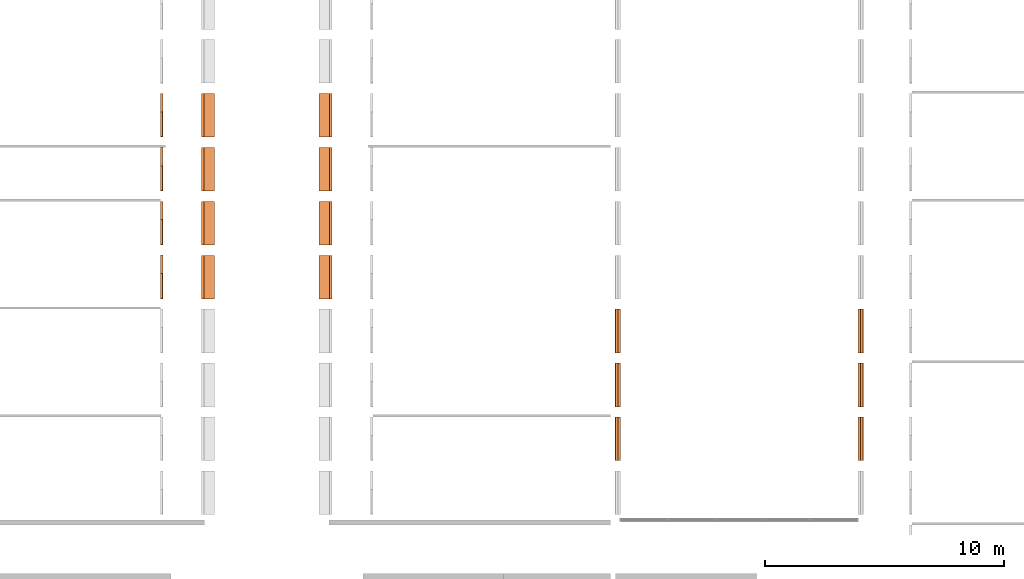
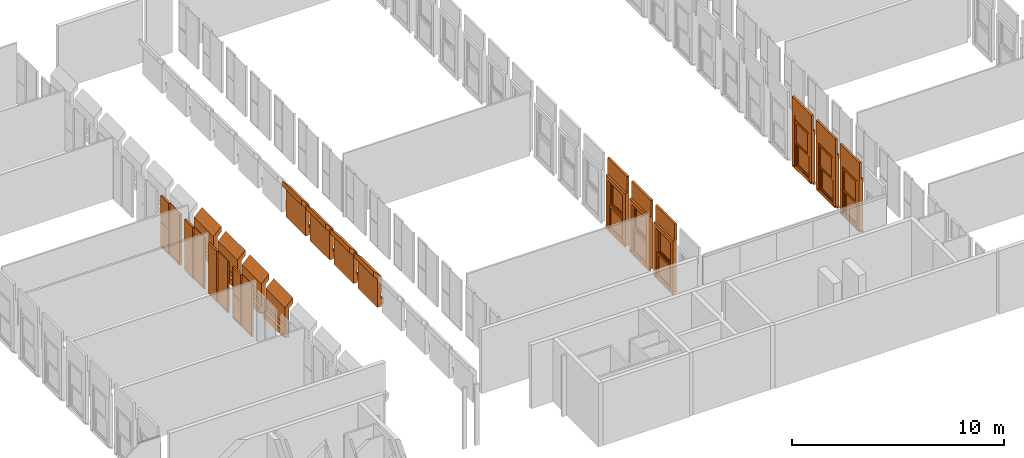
# One storey, part 9 of 13: 18 proxies.
"""IFC2X3 building model written with IfcOpenShell, lengths in millimetres."""

from ifc_helpers import new_model, entity, si_unit, converted_unit, derived_unit, direction, frame, frame_2d, origin, origin_2d_with_axis, place, context, subcontext, project, spatial, polyline, rectangle, outline, extrude, source, transform, mapped, material, material_list, type_object, type_shapes, element, save


model = new_model("IFC2X3")

# Units and contexts
model_context = context("Model", 3, precision=0.01, world=origin(), true_north=direction((6.12303176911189e-17, 1.0)))
body_context = subcontext(model_context, "Body", "Model", "MODEL_VIEW")
ifc_project = project(units=[si_unit("LENGTHUNIT", "METRE", prefix="MILLI"), si_unit("AREAUNIT", "SQUARE_METRE"), si_unit("VOLUMEUNIT", "CUBIC_METRE"), converted_unit("PLANEANGLEUNIT", "DEGREE", entity("IfcRatioMeasure", 0.0174532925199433), si_unit("PLANEANGLEUNIT", "RADIAN"), dimensions=[0, 0, 0, 0, 0, 0, 0]), si_unit("MASSUNIT", "GRAM", prefix="KILO"), derived_unit("MASSDENSITYUNIT", [(si_unit("MASSUNIT", "GRAM", prefix="KILO"), 1), (si_unit("LENGTHUNIT", "METRE"), -3)]), derived_unit("MOMENTOFINERTIAUNIT", [(si_unit("LENGTHUNIT", "METRE"), 4)]), si_unit("TIMEUNIT", "SECOND"), si_unit("FREQUENCYUNIT", "HERTZ"), si_unit("THERMODYNAMICTEMPERATUREUNIT", "DEGREE_CELSIUS"), derived_unit("THERMALTRANSMITTANCEUNIT", [(si_unit("MASSUNIT", "GRAM", prefix="KILO"), 1), (si_unit("THERMODYNAMICTEMPERATUREUNIT", "KELVIN"), -1), (si_unit("TIMEUNIT", "SECOND"), -3)]), derived_unit("VOLUMETRICFLOWRATEUNIT", [(si_unit("LENGTHUNIT", "METRE"), 3), (si_unit("TIMEUNIT", "SECOND"), -1)]), si_unit("ELECTRICCURRENTUNIT", "AMPERE"), si_unit("ELECTRICVOLTAGEUNIT", "VOLT"), si_unit("POWERUNIT", "WATT"), si_unit("FORCEUNIT", "NEWTON", prefix="KILO"), si_unit("ILLUMINANCEUNIT", "LUX"), si_unit("LUMINOUSFLUXUNIT", "LUMEN"), si_unit("LUMINOUSINTENSITYUNIT", "CANDELA"), derived_unit("USERDEFINED", [(si_unit("MASSUNIT", "GRAM", prefix="KILO"), -1), (si_unit("LENGTHUNIT", "METRE"), -2), (si_unit("TIMEUNIT", "SECOND"), 3), (si_unit("LUMINOUSFLUXUNIT", "LUMEN"), 1)]), derived_unit("LINEARVELOCITYUNIT", [(si_unit("LENGTHUNIT", "METRE"), 1), (si_unit("TIMEUNIT", "SECOND"), -1)]), si_unit("PRESSUREUNIT", "PASCAL"), derived_unit("USERDEFINED", [(si_unit("LENGTHUNIT", "METRE"), -2), (si_unit("MASSUNIT", "GRAM", prefix="KILO"), 1), (si_unit("TIMEUNIT", "SECOND"), -2)]), derived_unit("LINEARFORCEUNIT", [(si_unit("MASSUNIT", "GRAM", prefix="KILO"), 1), (si_unit("LENGTHUNIT", "METRE"), 1), (si_unit("TIMEUNIT", "SECOND"), -2), (si_unit("LENGTHUNIT", "METRE"), -1)]), derived_unit("PLANARFORCEUNIT", [(si_unit("MASSUNIT", "GRAM", prefix="KILO"), 1), (si_unit("LENGTHUNIT", "METRE"), 1), (si_unit("TIMEUNIT", "SECOND"), -2), (si_unit("LENGTHUNIT", "METRE"), -2)])], contexts=[model_context])

# Site, building, storey
site_placement = place(None, frame((10627.5135316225, 21939.0796949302, 0.0)))
site = spatial("IfcSite", under=ifc_project, at=site_placement, Name="Default", CompositionType="ELEMENT")
building_placement = place(site_placement, origin())
building = spatial("IfcBuilding", under=site, at=building_placement, CompositionType="ELEMENT")
storey_placement = place(building_placement, frame((0.0, 0.0, 7320.0)))
storey = spatial("IfcBuildingStorey", under=building, at=storey_placement, Name="R+2", CompositionType="ELEMENT", Elevation=7320.0)

# Proxies
ifc_material_1 = material(Name="PVC, Flexible")
ifc_material_2 = material(Name="Glass")
ifc_material_list_1 = material_list([ifc_material_1, ifc_material_2])
building_element_proxy_type_1 = type_object("IfcBuildingElementProxyType", Name="FENETRE.dwg:Fenetre ext 296+95", PredefinedType="NOTDEFINED", material=ifc_material_1)
shared_shape_1 = source(origin(), body_context, "Body", "SweptSolid", [
    extrude(rectangle(XDim=1829.99999999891, YDim=112.500043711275, at=origin_2d_with_axis()), frame((-10.4189092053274, 56.2500218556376, 2960.0), z_axis=(0.0, 0.0, 1.0), x_axis=(-1.0, 0.0, 0.0)), (0.0, 0.0, 1.0), 949.999999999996),
    extrude(outline(polyline([(-68.5678005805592, -14.3879872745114), (-72.4883397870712, -33.9999574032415), (-67.5853472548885, -34.9800922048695), (-63.9024543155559, -16.5569155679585), (44.3087537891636, -16.5569155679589), (54.1101018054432, 32.4730097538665), (40.6268723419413, 35.1683804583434), (40.1368049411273, 32.7168841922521), (51.168538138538, 30.5115808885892), (42.1928709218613, -14.3879872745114), (-68.5678005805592, -14.3879872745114)])), frame((-925.418909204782, 66.917049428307, -47.5499763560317), z_axis=(-1.0, 0.0, 0.0), x_axis=(0.0, 0.980598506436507, -0.196026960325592)), (0.0, 0.0, -1.0), 1829.99999999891),
    extrude(outline(polyline([(-64.667066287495, -56.2500218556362), (66.1666874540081, -56.2500218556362), (66.1666874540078, 56.2500218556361), (-67.6663086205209, 56.2500218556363), (-64.667066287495, -56.2500218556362)])), frame((-925.418909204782, -56.2500218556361, -63.833312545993), z_axis=(1.0, 0.0, 0.0), x_axis=(0.0, 0.0, -1.0)), (0.0, 0.0, 1.0), 1829.99999999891),
    extrude(outline(polyline([(-55.5555555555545, 97.0007159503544), (-55.5555555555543, -5.85738417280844), (-55.5555555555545, -95.357341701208), (-45.5555555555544, -95.3573417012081), (-45.5555555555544, -105.357341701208), (174.444444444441, -105.357341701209), (174.444444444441, 106.642659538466), (-45.5555555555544, 106.642659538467), (-45.5555555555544, 97.0007159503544), (-55.5555555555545, 97.0007159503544)])), frame((849.025535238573, 5.85738417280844, 0.0), z_axis=(0.0, 0.0, -1.0), x_axis=(-1.0, 0.0, 0.0)), (0.0, 0.0, -1.0), 2960.0),
    extrude(rectangle(XDim=199.499957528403, YDim=1369.99999999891, at=origin_2d_with_axis()), frame((-10.4189092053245, 0.250021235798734, 2730.0), z_axis=(0.0, 0.0, 1.0), x_axis=(0.0, 1.0, 0.0)), (0.0, 0.0, 1.0), 230.000000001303),
    extrude(outline(polyline([(-97.0007159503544, -55.5555555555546), (5.85738417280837, -55.5555555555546), (95.357341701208, -55.5555555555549), (95.357341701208, -45.5555555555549), (105.357341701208, -45.5555555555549), (105.357341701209, 174.44444444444), (-106.642659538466, 174.444444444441), (-106.642659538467, -45.5555555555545), (-97.0007159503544, -45.5555555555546), (-97.0007159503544, -55.5555555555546)])), frame((-869.863353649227, 5.85738417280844, 0.0), z_axis=(0.0, 0.0, 1.0), x_axis=(0.0, -1.0, 0.0)), (0.0, 0.0, 1.0), 2960.0),
    extrude(rectangle(XDim=1.0, YDim=1079.99999999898, at=origin_2d_with_axis()), frame((-10.4189092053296, -19.5, 130.0), z_axis=(0.0, 0.0, 1.0), x_axis=(0.0, 1.0, 0.0)), (0.0, 0.0, 1.0), 1120.00000000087),
    extrude(rectangle(XDim=1.0, YDim=1079.99999999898, at=frame_2d((-4.21884749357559e-15, 0.0), x_axis=(1.0, 0.0))), frame((-10.4189092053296, -30.5, 130.0), z_axis=(0.0, 0.0, 1.0), x_axis=(0.0, 1.0, 0.0)), (0.0, 0.0, 1.0), 1120.00000000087),
    extrude(rectangle(XDim=1.0, YDim=1079.99999999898, at=frame_2d((-4.21884749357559e-15, 0.0), x_axis=(1.0, 0.0))), frame((-10.4189092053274, 69.5, 1465.0), z_axis=(0.0, 0.0, 1.0), x_axis=(0.0, 1.0, 0.0)), (0.0, 0.0, 1.0), 1120.0),
    extrude(rectangle(XDim=0.999999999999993, YDim=1079.99999999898, at=frame_2d((-8.46545056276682e-15, 0.0), x_axis=(1.0, 0.0))), frame((-10.4189092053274, 80.5, 1465.0), z_axis=(0.0, 0.0, 1.0), x_axis=(0.0, 1.0, 0.0)), (0.0, 0.0, 1.0), 1120.00000000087),
    extrude(outline(polyline([(-685.0, -1365.0), (0.0, -1365.0), (685.0, -1365.0), (685.0, 1365.0), (0.0, 1365.0), (-685.0, 1365.0), (-685.0, -1365.0)]), holes=[polyline([(-640.0, -1320.0), (-640.0, -45.0), (0.0, -45.0), (640.0, -45.0), (640.0, -1320.0), (0.0, -1320.0), (-640.0, -1320.0)]), polyline([(-640.0, 40.0), (-640.0, 1315.0), (0.0, 1315.0), (640.0, 1315.0), (640.0, 40.0), (0.0, 40.0), (-640.0, 40.0)])]), frame((-10.4189092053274, 0.0, 1365.0), z_axis=(0.0, 1.0, 0.0), x_axis=(1.0, 0.0, 0.0)), (0.0, 0.0, 1.0), 50.0),
    extrude(outline(polyline([(-655.0, -667.500000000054), (655.0, -667.500000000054), (655.0, 667.500000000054), (-655.0, 667.500000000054), (-655.0, -667.500000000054)]), holes=[polyline([(-540.0, 552.500000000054), (540.0, 552.500000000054), (540.0, -567.500000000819), (-540.0, -567.500000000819), (-540.0, 552.500000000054)])]), frame((-10.4189092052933, -50.0, 697.500000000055), z_axis=(0.0, 1.0, 0.0), x_axis=(-1.0, 0.0, 0.0)), (0.0, 0.0, 1.0), 50.0),
    extrude(outline(polyline([(-655.0, -667.500000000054), (655.0, -667.500000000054), (655.0, 667.500000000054), (-655.0, 667.500000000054), (-655.0, -667.500000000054)]), holes=[polyline([(-540.0, 552.500000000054), (540.0, 552.500000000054), (540.0, -567.500000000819), (-540.0, -567.500000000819), (-540.0, 552.500000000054)])]), frame((-10.4189092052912, 50.0, 2032.50000000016), z_axis=(0.0, 1.0, 0.0), x_axis=(-1.0, 0.0, 0.0)), (0.0, 0.0, 1.0), 50.0),
])
type_shapes(building_element_proxy_type_1, [shared_shape_1])
proxy_1_placement = place(storey_placement, frame((51473.0982174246, -7238.66078572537, 0.0), z_axis=(0.0, 0.0, 1.0), x_axis=(0.0, 1.0, 0.0)))
element("IfcBuildingElementProxy", 1, at=proxy_1_placement, inside=storey, type_object=building_element_proxy_type_1, material=ifc_material_list_1, Name="FENETRE.dwg:Fenetre ext 296+95", ObjectType="FENETRE.dwg:Fenetre ext 296+95", context=body_context, shape_type="MappedRepresentation", body=[
    mapped(shared_shape_1, transform((0.0, 0.0, 0.0), scale=1.0)),
])
ifc_material_list_2 = material_list([ifc_material_1, ifc_material_2])
proxy_2_placement = place(storey_placement, frame((51473.0982174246, -9498.66078572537, 0.0), z_axis=(0.0, 0.0, 1.0), x_axis=(0.0, 1.0, 0.0)))
element("IfcBuildingElementProxy", 2, at=proxy_2_placement, inside=storey, type_object=building_element_proxy_type_1, material=ifc_material_list_2, Name="FENETRE.dwg:Fenetre ext 296+95", ObjectType="FENETRE.dwg:Fenetre ext 296+95", context=body_context, shape_type="MappedRepresentation", body=[
    mapped(shared_shape_1, transform((0.0, 0.0, 0.0), scale=1.0)),
])
ifc_material_list_3 = material_list([ifc_material_1, ifc_material_2])
proxy_3_placement = place(storey_placement, frame((51473.0982174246, -11758.6607857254, 0.0), z_axis=(0.0, 0.0, 1.0), x_axis=(0.0, 1.0, 0.0)))
element("IfcBuildingElementProxy", 3, at=proxy_3_placement, inside=storey, type_object=building_element_proxy_type_1, material=ifc_material_list_3, Name="FENETRE.dwg:Fenetre ext 296+95", ObjectType="FENETRE.dwg:Fenetre ext 296+95", context=body_context, shape_type="MappedRepresentation", body=[
    mapped(shared_shape_1, transform((0.0, 0.0, 0.0), scale=1.0)),
])
ifc_material_list_4 = material_list([ifc_material_1, ifc_material_2])
building_element_proxy_type_2 = type_object("IfcBuildingElementProxyType", Name="FENETRE.dwg:Fenetre ext 296+95", PredefinedType="NOTDEFINED", material=ifc_material_1)
shared_shape_2 = source(origin(), body_context, "Body", "SweptSolid", [
    extrude(rectangle(XDim=112.500043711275, YDim=1829.99999999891, at=origin_2d_with_axis()), frame((-10.4189092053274, -56.2500218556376, 2960.0), z_axis=(0.0, 0.0, 1.0), x_axis=(0.0, 1.0, 0.0)), (0.0, 0.0, 1.0), 949.999999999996),
    extrude(outline(polyline([(27.5499763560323, -64.4170494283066), (47.5499763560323, -64.4170494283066), (47.5499763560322, -59.4170494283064), (28.7622905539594, -59.4170494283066), (7.54997635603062, 46.6946996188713), (-42.4500236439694, 46.6946996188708), (-42.4500236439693, 32.9446996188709), (-39.9500236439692, 32.9446996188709), (-39.9500236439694, 44.1946996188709), (5.83789859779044, 44.1946996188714), (27.5499763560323, -64.4170494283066)])), frame((-925.418909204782, -66.917049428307, -47.5499763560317), z_axis=(1.0, 0.0, 0.0), x_axis=(0.0, 0.0, 1.0)), (0.0, 0.0, 1.0), 1829.99999999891),
    extrude(outline(polyline([(-54.506636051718, -66.1431859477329), (58.0333803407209, -66.1431859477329), (54.4666704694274, 67.6422744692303), (-57.9934147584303, 64.6440974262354), (-54.506636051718, -66.1431859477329)])), frame((-925.418909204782, 56.2500218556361, -63.833312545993), z_axis=(1.0, 0.0, 0.0), x_axis=(0.0, -0.999644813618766, 0.0266504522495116)), (0.0, 0.0, 1.0), 1829.99999999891),
    extrude(outline(polyline([(-97.0007159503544, -55.5555555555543), (5.85738417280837, -55.5555555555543), (95.357341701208, -55.5555555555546), (95.357341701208, -45.5555555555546), (105.357341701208, -45.5555555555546), (105.357341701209, 174.444444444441), (-106.642659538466, 174.444444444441), (-106.642659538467, -45.5555555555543), (-97.0007159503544, -45.5555555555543), (-97.0007159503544, -55.5555555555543)])), frame((849.025535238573, -5.85738417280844, 0.0), z_axis=(0.0, 0.0, 1.0), x_axis=(0.0, 1.0, 0.0)), (0.0, 0.0, 1.0), 2960.0),
    extrude(rectangle(XDim=1369.99999999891, YDim=199.499957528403, at=origin_2d_with_axis()), frame((-10.4189092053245, -0.250021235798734, 2730.0), z_axis=(0.0, 0.0, 1.0), x_axis=(-1.0, 0.0, 0.0)), (0.0, 0.0, 1.0), 230.000000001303),
    extrude(outline(polyline([(-55.5555555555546, 97.0007159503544), (-55.5555555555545, -5.85738417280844), (-55.5555555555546, -95.357341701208), (-45.5555555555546, -95.3573417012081), (-45.5555555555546, -105.357341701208), (174.444444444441, -105.357341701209), (174.444444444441, 106.642659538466), (-45.5555555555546, 106.642659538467), (-45.5555555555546, 97.0007159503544), (-55.5555555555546, 97.0007159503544)])), frame((-869.863353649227, -5.85738417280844, 0.0), z_axis=(0.0, 0.0, -1.0), x_axis=(1.0, 0.0, 0.0)), (0.0, 0.0, -1.0), 2960.0),
    extrude(rectangle(XDim=1079.99999999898, YDim=1.0, at=origin_2d_with_axis()), frame((-10.4189092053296, 19.5, 130.0), z_axis=(0.0, 0.0, 1.0), x_axis=(-1.0, 0.0, 0.0)), (0.0, 0.0, 1.0), 1120.00000000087),
    extrude(rectangle(XDim=1079.99999999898, YDim=1.0, at=origin_2d_with_axis()), frame((-10.4189092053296, 30.5, 130.0), z_axis=(0.0, 0.0, 1.0), x_axis=(-1.0, 0.0, 0.0)), (0.0, 0.0, 1.0), 1120.00000000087),
    extrude(rectangle(XDim=1079.99999999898, YDim=1.0, at=frame_2d((0.0, 4.21884749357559e-15), x_axis=(1.0, 0.0))), frame((-10.4189092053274, -69.5, 1465.0), z_axis=(0.0, 0.0, 1.0), x_axis=(-1.0, 0.0, 0.0)), (0.0, 0.0, 1.0), 1120.0),
    extrude(rectangle(XDim=1079.99999999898, YDim=0.999999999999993, at=frame_2d((0.0, -8.46545056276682e-15), x_axis=(1.0, 0.0))), frame((-10.4189092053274, -80.5, 1465.0), z_axis=(0.0, 0.0, 1.0), x_axis=(-1.0, 0.0, 0.0)), (0.0, 0.0, 1.0), 1120.00000000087),
    extrude(outline(polyline([(-685.0, -1365.0), (0.0, -1365.0), (685.0, -1365.0), (685.0, 1365.0), (0.0, 1365.0), (-685.0, 1365.0), (-685.0, -1365.0)]), holes=[polyline([(-640.0, -1320.0), (-640.0, -45.0), (0.0, -45.0), (640.0, -45.0), (640.0, -1320.0), (0.0, -1320.0), (-640.0, -1320.0)]), polyline([(-640.0, 40.0), (-640.0, 1315.0), (0.0, 1315.0), (640.0, 1315.0), (640.0, 40.0), (0.0, 40.0), (-640.0, 40.0)])]), frame((-10.4189092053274, -50.0, 1365.0), z_axis=(0.0, 1.0, 0.0), x_axis=(1.0, 0.0, 0.0)), (0.0, 0.0, 1.0), 50.0),
    extrude(outline(polyline([(-655.0, -667.500000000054), (655.0, -667.500000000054), (655.0, 667.500000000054), (-655.0, 667.500000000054), (-655.0, -667.500000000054)]), holes=[polyline([(-540.0, 552.500000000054), (540.0, 552.500000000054), (540.0, -567.500000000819), (-540.0, -567.500000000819), (-540.0, 552.500000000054)])]), frame((-10.4189092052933, 0.0, 697.500000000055), z_axis=(0.0, 1.0, 0.0), x_axis=(-1.0, 0.0, 0.0)), (0.0, 0.0, 1.0), 50.0),
    extrude(outline(polyline([(-655.0, -667.500000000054), (655.0, -667.500000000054), (655.0, 667.500000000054), (-655.0, 667.500000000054), (-655.0, -667.500000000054)]), holes=[polyline([(-540.0, 552.500000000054), (540.0, 552.500000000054), (540.0, -567.500000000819), (-540.0, -567.500000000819), (-540.0, 552.500000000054)])]), frame((-10.4189092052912, -100.0, 2032.50000000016), z_axis=(0.0, 1.0, 0.0), x_axis=(-1.0, 0.0, 0.0)), (0.0, 0.0, 1.0), 50.0),
])
type_shapes(building_element_proxy_type_2, [shared_shape_2])
proxy_4_placement = place(storey_placement, frame((41291.8747193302, -7238.66078572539, 0.0), z_axis=(0.0, 0.0, 1.0), x_axis=(0.0, 1.0, 0.0)))
element("IfcBuildingElementProxy", 4, at=proxy_4_placement, inside=storey, type_object=building_element_proxy_type_2, material=ifc_material_list_4, Name="FENETRE.dwg:Fenetre ext 296+95", ObjectType="FENETRE.dwg:Fenetre ext 296+95", context=body_context, shape_type="MappedRepresentation", body=[
    mapped(shared_shape_2, transform((0.0, 0.0, 0.0), scale=1.0)),
])
ifc_material_list_5 = material_list([ifc_material_1, ifc_material_2])
proxy_5_placement = place(storey_placement, frame((41291.8747193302, -9498.66078572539, 0.0), z_axis=(0.0, 0.0, 1.0), x_axis=(0.0, 1.0, 0.0)))
element("IfcBuildingElementProxy", 5, at=proxy_5_placement, inside=storey, type_object=building_element_proxy_type_2, material=ifc_material_list_5, Name="FENETRE.dwg:Fenetre ext 296+95", ObjectType="FENETRE.dwg:Fenetre ext 296+95", context=body_context, shape_type="MappedRepresentation", body=[
    mapped(shared_shape_2, transform((0.0, 0.0, 0.0), scale=1.0)),
])
ifc_material_list_6 = material_list([ifc_material_1, ifc_material_2])
proxy_6_placement = place(storey_placement, frame((41291.8747193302, -11758.6607857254, 0.0), z_axis=(0.0, 0.0, 1.0), x_axis=(0.0, 1.0, 0.0)))
element("IfcBuildingElementProxy", 6, at=proxy_6_placement, inside=storey, type_object=building_element_proxy_type_2, material=ifc_material_list_6, Name="FENETRE.dwg:Fenetre ext 296+95", ObjectType="FENETRE.dwg:Fenetre ext 296+95", context=body_context, shape_type="MappedRepresentation", body=[
    mapped(shared_shape_2, transform((0.0, 0.0, 0.0), scale=1.0)),
])
ifc_material_3 = material(Name="Plywood, Sheathing")
ifc_material_list_7 = material_list([ifc_material_3, ifc_material_2])
building_element_proxy_type_3 = type_object("IfcBuildingElementProxyType", Name="Porte noire:Porte noire", PredefinedType="NOTDEFINED", material=ifc_material_3)
shared_shape_3 = source(origin(), body_context, "Body", "SweptSolid", [
    extrude(rectangle(XDim=100.0, YDim=23.0000000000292, at=origin_2d_with_axis()), frame((-950.918997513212, -50.0, 8.73189890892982), z_axis=(0.0, 0.0, 1.0), x_axis=(0.0, 1.0, 0.0)), (0.0, 0.0, 1.0), 2933.34951039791),
    extrude(rectangle(XDim=19.0, YDim=1038.0, at=frame_2d((7.99360577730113e-15, 0.0), x_axis=(1.0, 0.0))), frame((-420.418997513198, -87.5, 43.7318989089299), z_axis=(0.0, 0.0, 1.0), x_axis=(0.0, 1.0, 0.0)), (0.0, 0.0, 1.0), 2898.5),
    extrude(rectangle(XDim=100.0, YDim=1775.0, at=origin_2d_with_axis()), frame((-51.9189975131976, -50.0, 8.73189890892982), z_axis=(0.0, 0.0, 1.0), x_axis=(0.0, 1.0, 0.0)), (0.0, 0.0, 1.0), 35.0000000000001),
    extrude(rectangle(XDim=100.0, YDim=35.0000000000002, at=origin_2d_with_axis()), frame((853.081002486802, -50.0, 8.73189890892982), z_axis=(0.0, 0.0, 1.0), x_axis=(0.0, 1.0, 0.0)), (0.0, 0.0, 1.0), 2898.5),
    extrude(rectangle(XDim=100.0, YDim=740.0, at=origin_2d_with_axis()), frame((500.581002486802, -50.0, 2907.23189890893), z_axis=(0.0, 0.0, 1.0), x_axis=(0.0, 1.0, 0.0)), (0.0, 0.0, 1.0), 35.0000000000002),
    extrude(rectangle(XDim=100.0, YDim=31.9999999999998, at=origin_2d_with_axis()), frame((114.581002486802, -50.0, 43.7318989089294), z_axis=(0.0, 0.0, 1.0), x_axis=(0.0, 1.0, 0.0)), (0.0, 0.0, 1.0), 2898.5),
    extrude(rectangle(XDim=100.0, YDim=705.0, at=origin_2d_with_axis()), frame((483.081002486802, -50.0, 1343.73189890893), z_axis=(0.0, 0.0, 1.0), x_axis=(0.0, 1.0, 0.0)), (0.0, 0.0, 1.0), 55.0),
    extrude(outline(polyline([(-352.5, -650.0), (352.5, -650.0), (352.5, 650.0), (-352.5, 650.0), (-352.5, -650.0)]), holes=[polyline([(342.5, 640.0), (342.5, -640.0), (-342.5, -640.0), (-342.5, 640.0), (342.5, 640.0)])]), frame((483.081002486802, -80.0, 693.73189890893), z_axis=(0.0, 1.0, 0.0), x_axis=(1.0, 0.0, 0.0)), (0.0, 0.0, 1.0), 70.0),
    extrude(outline(polyline([(-754.25, -352.5), (754.25, -352.5), (754.25, 352.5), (-754.25, 352.5), (-754.25, -352.5)]), holes=[polyline([(744.25, 342.5), (744.25, -342.5), (-744.25, -342.5), (-744.25, 342.5), (744.25, 342.5)])]), frame((483.081002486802, -80.0, 2152.98189890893), z_axis=(0.0, 1.0, 0.0), x_axis=(0.0, 0.0, 1.0)), (0.0, 0.0, 1.0), 70.0),
    extrude(outline(polyline([(-640.0, -342.5), (640.0, -342.5), (640.0, 342.5), (-640.0, 342.5), (-640.0, -342.5)]), holes=[polyline([(630.0, 332.5), (630.0, -332.5), (-630.0, -332.5), (-630.0, 332.5), (630.0, 332.5)])]), frame((483.081002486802, -81.0, 693.731898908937), z_axis=(0.0, 1.0, 0.0), x_axis=(0.0, 0.0, 1.0)), (0.0, 0.0, 1.0), 3.99999999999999),
    extrude(outline(polyline([(-744.25, -342.5), (744.25, -342.5), (744.25, 342.5), (-744.25, 342.5), (-744.25, -342.5)]), holes=[polyline([(734.25, 332.5), (734.25, -332.5), (-734.25, -332.5), (-734.25, 332.5), (734.25, 332.5)])]), frame((483.081002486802, -81.0, 2152.98189890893), z_axis=(0.0, 1.0, 0.0), x_axis=(0.0, 0.0, 1.0)), (0.0, 0.0, 1.0), 3.99999999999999),
    extrude(outline(polyline([(-640.0, -342.5), (640.0, -342.5), (640.0, 342.5), (-640.0, 342.5), (-640.0, -342.5)]), holes=[polyline([(630.0, 332.5), (630.0, -332.5), (-630.0, -332.5), (-630.0, 332.5), (630.0, 332.5)])]), frame((483.081002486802, -15.0, 693.782575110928), z_axis=(0.0, 1.0, 0.0), x_axis=(0.0, 0.0, 1.0)), (0.0, 0.0, 1.0), 5.0),
    extrude(outline(polyline([(-744.25, -342.5), (744.25, -342.5), (744.25, 342.5), (-744.25, 342.5), (-744.25, -342.5)]), holes=[polyline([(734.25, 332.5), (734.25, -332.5), (-734.25, -332.5), (-734.25, 332.5), (734.25, 332.5)])]), frame((483.081002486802, -15.0, 2153.03257511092), z_axis=(0.0, 1.0, 0.0), x_axis=(0.0, 0.0, 1.0)), (0.0, 0.0, 1.0), 5.0),
    extrude(rectangle(XDim=2.0, YDim=665.0, at=frame_2d((8.43769498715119e-15, 0.0), x_axis=(1.0, 0.0))), frame((483.081002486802, -79.0, 1418.73189890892), z_axis=(0.0, 0.0, 1.0), x_axis=(0.0, 1.0, 0.0)), (0.0, 0.0, 1.0), 1468.50000000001),
    extrude(rectangle(XDim=2.0, YDim=665.0, at=frame_2d((8.43769498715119e-15, 0.0), x_axis=(1.0, 0.0))), frame((483.081002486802, -79.0, 63.7318989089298), z_axis=(0.0, 0.0, 1.0), x_axis=(0.0, 1.0, 0.0)), (0.0, 0.0, 1.0), 1260.0),
    extrude(rectangle(XDim=2.0, YDim=665.0, at=frame_2d((1.0547118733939e-15, 0.0), x_axis=(1.0, 0.0))), frame((483.081002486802, -13.0, 1418.78257511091), z_axis=(0.0, 0.0, 1.0), x_axis=(0.0, 1.0, 0.0)), (0.0, 0.0, 1.0), 1468.50000000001),
    extrude(rectangle(XDim=2.0, YDim=665.0, at=frame_2d((1.0547118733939e-15, 0.0), x_axis=(1.0, 0.0))), frame((483.081002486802, -13.0, 63.7825751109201), z_axis=(0.0, 0.0, 1.0), x_axis=(0.0, 1.0, 0.0)), (0.0, 0.0, 1.0), 1260.0),
])
type_shapes(building_element_proxy_type_3, [shared_shape_3])
proxy_7_placement = place(storey_placement, frame((22127.8464640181, -4942.66069741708, 0.0), z_axis=(0.0, 0.0, 1.0), x_axis=(0.0, 1.0, 0.0)))
element("IfcBuildingElementProxy", 7, at=proxy_7_placement, inside=storey, type_object=building_element_proxy_type_3, material=ifc_material_list_7, Name="Porte noire:Porte noire", ObjectType="Porte noire:Porte noire", context=body_context, shape_type="MappedRepresentation", body=[
    mapped(shared_shape_3, transform((0.0, 0.0, 0.0), scale=1.0)),
])
ifc_material_list_8 = material_list([ifc_material_3, ifc_material_2])
proxy_8_placement = place(storey_placement, frame((22127.8464640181, -2682.66069741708, 0.0), z_axis=(0.0, 0.0, 1.0), x_axis=(0.0, 1.0, 0.0)))
element("IfcBuildingElementProxy", 8, at=proxy_8_placement, inside=storey, type_object=building_element_proxy_type_3, material=ifc_material_list_8, Name="Porte noire:Porte noire", ObjectType="Porte noire:Porte noire", context=body_context, shape_type="MappedRepresentation", body=[
    mapped(shared_shape_3, transform((0.0, 0.0, 0.0), scale=1.0)),
])
ifc_material_list_9 = material_list([ifc_material_3, ifc_material_2])
proxy_9_placement = place(storey_placement, frame((22127.8464640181, -422.660697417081, 0.0), z_axis=(0.0, 0.0, 1.0), x_axis=(0.0, 1.0, 0.0)))
element("IfcBuildingElementProxy", 9, at=proxy_9_placement, inside=storey, type_object=building_element_proxy_type_3, material=ifc_material_list_9, Name="Porte noire:Porte noire", ObjectType="Porte noire:Porte noire", context=body_context, shape_type="MappedRepresentation", body=[
    mapped(shared_shape_3, transform((0.0, 0.0, 0.0), scale=1.0)),
])
ifc_material_list_10 = material_list([ifc_material_3, ifc_material_2])
proxy_10_placement = place(storey_placement, frame((22127.8464640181, 1837.33930258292, 0.0), z_axis=(0.0, 0.0, 1.0), x_axis=(0.0, 1.0, 0.0)))
element("IfcBuildingElementProxy", 10, at=proxy_10_placement, inside=storey, type_object=building_element_proxy_type_3, material=ifc_material_list_10, Name="Porte noire:Porte noire", ObjectType="Porte noire:Porte noire", context=body_context, shape_type="MappedRepresentation", body=[
    mapped(shared_shape_3, transform((0.0, 0.0, 0.0), scale=1.0)),
])
ifc_material_4 = material(Name="Concrete, Precast Smooth, Light Grey")
building_element_proxy_type_4 = type_object("IfcBuildingElementProxyType", Name="Panneaux mediateque:Panneaux mediateque", PredefinedType="NOTDEFINED", material=ifc_material_4)
shared_shape_4 = source(origin(), body_context, "Body", "SweptSolid", [
    extrude(outline(polyline([(-998.434688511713, -508.899393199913), (-1213.39514999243, -723.859854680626), (-605.283318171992, -723.859854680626), (115.965598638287, -2.61093787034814), (101.823463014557, 11.5311977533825), (296.277827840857, 205.985562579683), (310.419963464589, 191.843426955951), (395.272229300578, 106.991161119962), (639.224068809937, 350.943000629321), (554.371802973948, 435.79526646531), (625.082466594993, 506.505930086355), (473.054508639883, 658.533888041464), (-694.378772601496, -508.899393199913), (-998.434688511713, -508.899393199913)])), frame((0.0, -203.845498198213, 800.153828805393), z_axis=(-1.0, 0.0, 0.0), x_axis=(0.0, 0.707106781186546, -0.707106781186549)), (0.0, 0.0, -1.0), 1830.0),
])
type_shapes(building_element_proxy_type_4, [shared_shape_4])
for number, where, z_axis, x_axis, name in (
    (11, (23837.4872432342, 875.920305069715, -700.0), (0.0, 0.0, 1.0), (0.0, 1.0, 0.0), "Panneaux mediateque:Panneaux mediateque"),
    (12, (23837.4872432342, -1384.07969493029, -700.0), (0.0, 0.0, 1.0), (0.0, 1.0, 0.0), "Panneaux mediateque:Panneaux mediateque"),
    (13, (23837.4872432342, -3644.07969493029, -700.0), (0.0, 0.0, 1.0), (0.0, 1.0, 0.0), "Panneaux mediateque:Panneaux mediateque"),
    (14, (23837.4872432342, -5904.07969493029, -700.0), (0.0, 0.0, 1.0), (0.0, 1.0, 0.0), "Panneaux mediateque:Panneaux mediateque"),
):
    element("IfcBuildingElementProxy", number, at=place(storey_placement, frame(where, z_axis=z_axis, x_axis=x_axis)), inside=storey, type_object=building_element_proxy_type_4, material=ifc_material_4, Name=name, ObjectType="Panneaux mediateque:Panneaux mediateque", context=body_context, shape_type="MappedRepresentation", body=[
        mapped(shared_shape_4, transform((0.0, 0.0, 0.0), scale=1.0)),
    ])
building_element_proxy_type_5 = type_object("IfcBuildingElementProxyType", Name="Panneaux mediateque:Panneaux mediateque", PredefinedType="NOTDEFINED", material=ifc_material_4)
shared_shape_5 = source(origin(), body_context, "Body", "SweptSolid", [
    extrude(outline(polyline([(1065.84615069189, -346.153726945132), (1369.84615069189, -346.153726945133), (939.84615069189, 83.8462730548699), (-80.1538493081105, 83.8462730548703), (-80.1538493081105, 63.8462730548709), (-355.15384930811, 63.8462730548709), (-355.15384930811, 83.8462730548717), (-355.15384930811, 203.845498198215), (-700.153849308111, 203.845498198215), (-700.153849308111, 83.8462730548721), (-800.153828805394, 83.8462730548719), (-800.153828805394, -131.153726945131), (850.846150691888, -131.153726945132), (1065.84615069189, -346.153726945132)])), frame((0.0, 203.845498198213, 800.153828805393), z_axis=(1.0, 0.0, 0.0), x_axis=(0.0, 0.0, 1.0)), (0.0, 0.0, 1.0), 1830.0),
])
type_shapes(building_element_proxy_type_5, [shared_shape_5])
for number, where, z_axis, x_axis, name in (
    (15, (29317.4856935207, 875.920305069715, -700.0), (0.0, 0.0, 1.0), (0.0, 1.0, 0.0), "Panneaux mediateque:Panneaux mediateque"),
    (16, (29317.4856935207, -1384.07969493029, -700.0), (0.0, 0.0, 1.0), (0.0, 1.0, 0.0), "Panneaux mediateque:Panneaux mediateque"),
    (17, (29317.4856935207, -3644.07969493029, -700.0), (0.0, 0.0, 1.0), (0.0, 1.0, 0.0), "Panneaux mediateque:Panneaux mediateque"),
    (18, (29317.4856935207, -5904.07969493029, -700.0), (0.0, 0.0, 1.0), (0.0, 1.0, 0.0), "Panneaux mediateque:Panneaux mediateque"),
):
    element("IfcBuildingElementProxy", number, at=place(storey_placement, frame(where, z_axis=z_axis, x_axis=x_axis)), inside=storey, type_object=building_element_proxy_type_5, material=ifc_material_4, Name=name, ObjectType="Panneaux mediateque:Panneaux mediateque", context=body_context, shape_type="MappedRepresentation", body=[
        mapped(shared_shape_5, transform((0.0, 0.0, 0.0), scale=1.0)),
    ])

save(model, "model.ifc")
